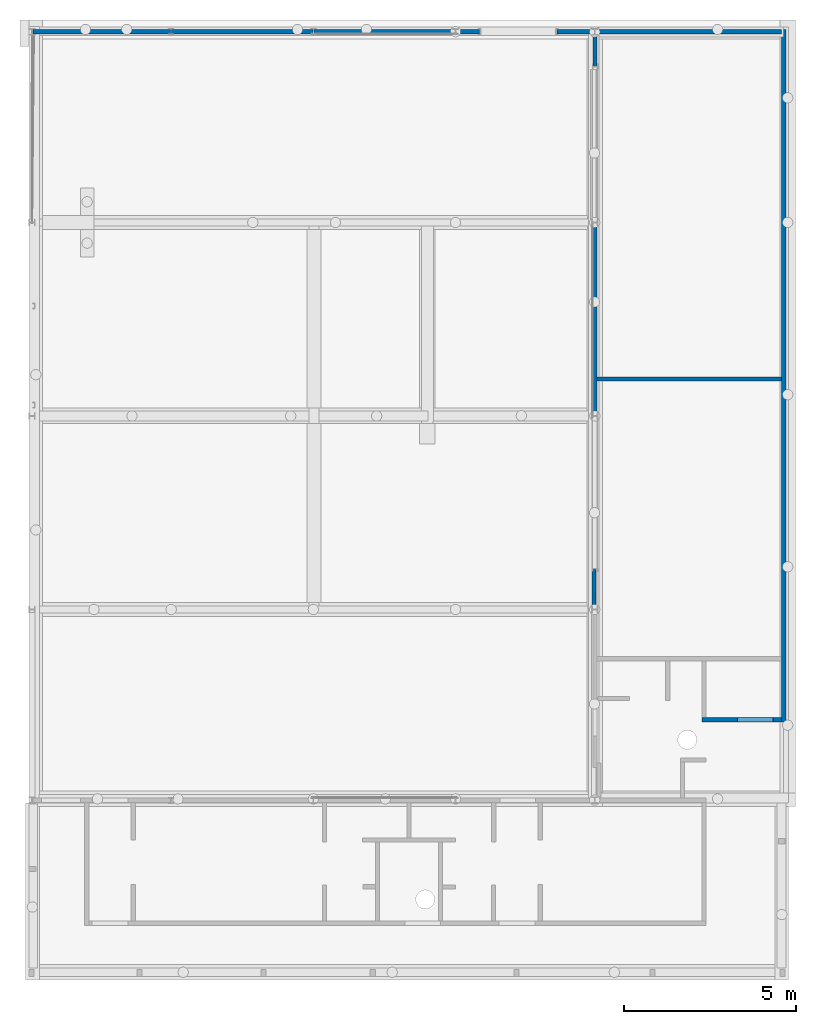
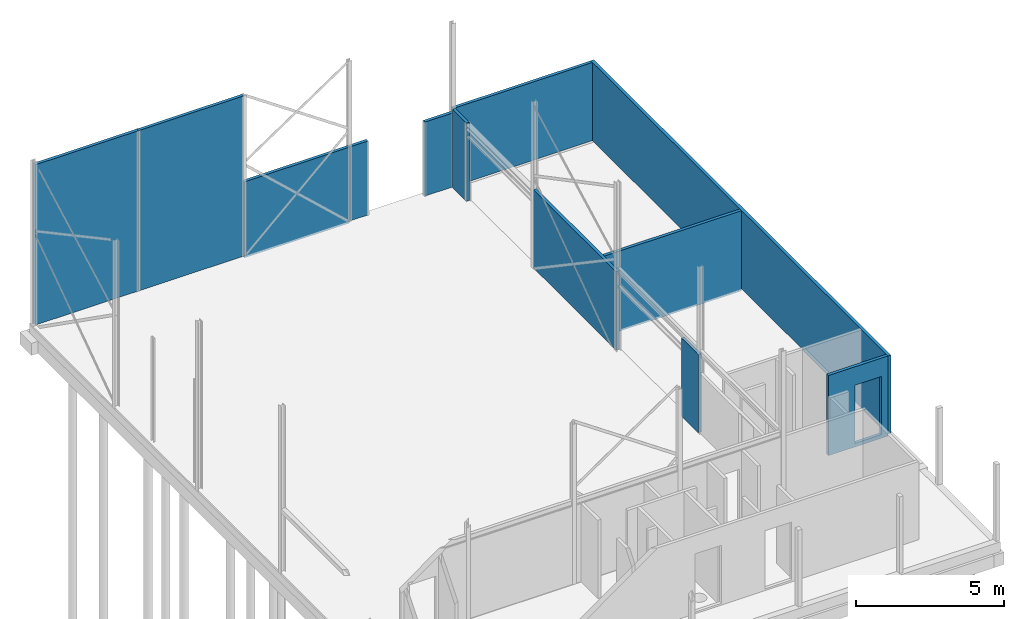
# One storey, part 10 of 17: 12 walls, 1 opening.
"""IFC2X3 building model written with IfcOpenShell, lengths in millimetres."""

from ifc_helpers import new_model, entity, si_unit, converted_unit, derived_unit, direction, frame, frame_2d, origin, place, context, subcontext, project, spatial, rectangle, extrude, material, layer, layer_set, layer_usage, type_object, element, save


model = new_model("IFC2X3")

# Units and contexts
model_context = context("Model", 3, precision=0.01, world=origin(), true_north=direction((6.123031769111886e-17, 1.0)))
plan_context = context("Plan", 3, precision=0.01, world=origin(), true_north=direction((6.123031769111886e-17, 1.0)))
body_context = subcontext(model_context, "Body", "Model", "MODEL_VIEW")
ifc_project = project(units=[si_unit("LENGTHUNIT", "METRE", prefix="MILLI"), si_unit("AREAUNIT", "SQUARE_METRE"), si_unit("VOLUMEUNIT", "CUBIC_METRE"), converted_unit("PLANEANGLEUNIT", "DEGREE", entity("IfcPlaneAngleMeasure", 0.017453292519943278), si_unit("PLANEANGLEUNIT", "RADIAN"), dimensions=[0, 0, 0, 0, 0, 0, 0]), si_unit("MASSUNIT", "GRAM", prefix="KILO"), derived_unit("MASSDENSITYUNIT", [(si_unit("MASSUNIT", "GRAM", prefix="KILO"), 1), (si_unit("LENGTHUNIT", "METRE"), -3)]), derived_unit("IONCONCENTRATIONUNIT", [(si_unit("MASSUNIT", "GRAM", prefix="KILO"), 1), (si_unit("LENGTHUNIT", "METRE"), -3)]), derived_unit("MOMENTOFINERTIAUNIT", [(si_unit("LENGTHUNIT", "METRE"), 4)]), si_unit("TIMEUNIT", "SECOND"), si_unit("FREQUENCYUNIT", "HERTZ"), si_unit("THERMODYNAMICTEMPERATUREUNIT", "DEGREE_CELSIUS"), derived_unit("THERMALTRANSMITTANCEUNIT", [(si_unit("MASSUNIT", "GRAM", prefix="KILO"), 1), (si_unit("THERMODYNAMICTEMPERATUREUNIT", "KELVIN"), -1), (si_unit("TIMEUNIT", "SECOND"), -3)]), derived_unit("THERMALCONDUCTANCEUNIT", [(si_unit("MASSUNIT", "GRAM", prefix="KILO"), 1), (si_unit("THERMODYNAMICTEMPERATUREUNIT", "KELVIN"), -1), (si_unit("TIMEUNIT", "SECOND"), -3), (si_unit("LENGTHUNIT", "METRE"), 1)]), derived_unit("VOLUMETRICFLOWRATEUNIT", [(si_unit("LENGTHUNIT", "METRE", prefix="DECI"), 3), (si_unit("TIMEUNIT", "SECOND"), -1)]), derived_unit("MASSFLOWRATEUNIT", [(si_unit("MASSUNIT", "GRAM", prefix="KILO"), 1), (si_unit("TIMEUNIT", "SECOND"), -1)]), derived_unit("ROTATIONALFREQUENCYUNIT", [(si_unit("TIMEUNIT", "SECOND"), -1)]), si_unit("ELECTRICCURRENTUNIT", "AMPERE"), si_unit("ELECTRICVOLTAGEUNIT", "VOLT"), si_unit("POWERUNIT", "WATT"), si_unit("FORCEUNIT", "NEWTON", prefix="KILO"), si_unit("ILLUMINANCEUNIT", "LUX"), si_unit("LUMINOUSFLUXUNIT", "LUMEN"), si_unit("LUMINOUSINTENSITYUNIT", "CANDELA"), si_unit("ENERGYUNIT", "JOULE"), derived_unit("USERDEFINED", [(si_unit("MASSUNIT", "GRAM", prefix="KILO"), -1), (si_unit("LENGTHUNIT", "METRE"), -2), (si_unit("TIMEUNIT", "SECOND"), 3), (si_unit("LUMINOUSFLUXUNIT", "LUMEN"), 1)]), derived_unit("USERDEFINED", [(si_unit("MASSUNIT", "GRAM", prefix="KILO"), 1), (si_unit("TIMEUNIT", "SECOND"), -3), (si_unit("LENGTHUNIT", "METRE"), 3), (si_unit("ELECTRICCURRENTUNIT", "AMPERE"), -2)]), derived_unit("SOUNDPOWERUNIT", [(si_unit("MASSUNIT", "GRAM", prefix="KILO"), 1), (si_unit("TIMEUNIT", "SECOND"), -3), (si_unit("LENGTHUNIT", "METRE"), 2)]), derived_unit("SOUNDPRESSUREUNIT", [(si_unit("MASSUNIT", "GRAM", prefix="KILO"), 1), (si_unit("LENGTHUNIT", "METRE"), -1), (si_unit("TIMEUNIT", "SECOND"), -2)]), derived_unit("LINEARVELOCITYUNIT", [(si_unit("LENGTHUNIT", "METRE"), 1), (si_unit("TIMEUNIT", "SECOND"), -1)]), si_unit("PRESSUREUNIT", "PASCAL"), derived_unit("USERDEFINED", [(si_unit("MASSUNIT", "GRAM", prefix="KILO"), 1), (si_unit("LENGTHUNIT", "METRE"), -2), (si_unit("TIMEUNIT", "SECOND"), -2)]), derived_unit("LINEARFORCEUNIT", [(si_unit("MASSUNIT", "GRAM", prefix="KILO"), 1), (si_unit("TIMEUNIT", "SECOND"), -2)]), derived_unit("PLANARFORCEUNIT", [(si_unit("MASSUNIT", "GRAM", prefix="KILO"), 1), (si_unit("LENGTHUNIT", "METRE"), -1), (si_unit("TIMEUNIT", "SECOND"), -2)]), derived_unit("SPECIFICHEATCAPACITYUNIT", [(si_unit("THERMODYNAMICTEMPERATUREUNIT", "KELVIN"), -1), (si_unit("LENGTHUNIT", "METRE"), 2), (si_unit("TIMEUNIT", "SECOND"), -2)]), derived_unit("HEATFLUXDENSITYUNIT", [(si_unit("MASSUNIT", "GRAM", prefix="KILO"), 1), (si_unit("TIMEUNIT", "SECOND"), -3)]), derived_unit("HEATINGVALUEUNIT", [(si_unit("LENGTHUNIT", "METRE"), 2), (si_unit("TIMEUNIT", "SECOND"), -2)]), derived_unit("VAPORPERMEABILITYUNIT", [(si_unit("LENGTHUNIT", "METRE"), -1), (si_unit("TIMEUNIT", "SECOND"), 1)]), derived_unit("DYNAMICVISCOSITYUNIT", [(si_unit("MASSUNIT", "GRAM", prefix="KILO"), 1), (si_unit("TIMEUNIT", "SECOND"), -1), (si_unit("LENGTHUNIT", "METRE"), -1)]), derived_unit("THERMALEXPANSIONCOEFFICIENTUNIT", [(si_unit("THERMODYNAMICTEMPERATUREUNIT", "KELVIN"), -1)]), derived_unit("MODULUSOFELASTICITYUNIT", [(si_unit("MASSUNIT", "GRAM", prefix="KILO"), 1), (si_unit("LENGTHUNIT", "METRE"), -1), (si_unit("TIMEUNIT", "SECOND"), -2)]), derived_unit("ISOTHERMALMOISTURECAPACITYUNIT", [(si_unit("MASSUNIT", "GRAM", prefix="KILO"), -1), (si_unit("LENGTHUNIT", "METRE"), 3)]), derived_unit("MOISTUREDIFFUSIVITYUNIT", [(si_unit("TIMEUNIT", "SECOND"), -1), (si_unit("LENGTHUNIT", "METRE"), 2)]), derived_unit("MASSPERLENGTHUNIT", [(si_unit("MASSUNIT", "GRAM", prefix="KILO"), 1), (si_unit("LENGTHUNIT", "METRE"), -1)]), derived_unit("THERMALRESISTANCEUNIT", [(si_unit("MASSUNIT", "GRAM", prefix="KILO"), -1), (si_unit("TIMEUNIT", "SECOND"), 3), (si_unit("THERMODYNAMICTEMPERATUREUNIT", "KELVIN"), 1)]), derived_unit("ACCELERATIONUNIT", [(si_unit("LENGTHUNIT", "METRE"), 1), (si_unit("TIMEUNIT", "SECOND"), -2)]), derived_unit("ANGULARVELOCITYUNIT", [(si_unit("TIMEUNIT", "SECOND"), -1), (si_unit("PLANEANGLEUNIT", "RADIAN"), 1)]), derived_unit("LINEARSTIFFNESSUNIT", [(si_unit("MASSUNIT", "GRAM", prefix="KILO"), 1), (si_unit("TIMEUNIT", "SECOND"), -2)]), derived_unit("WARPINGCONSTANTUNIT", [(si_unit("LENGTHUNIT", "METRE"), 6)]), derived_unit("LINEARMOMENTUNIT", [(si_unit("MASSUNIT", "GRAM", prefix="KILO"), 1), (si_unit("LENGTHUNIT", "METRE"), 1), (si_unit("TIMEUNIT", "SECOND"), -2)]), derived_unit("TORQUEUNIT", [(si_unit("MASSUNIT", "GRAM", prefix="KILO"), 1), (si_unit("LENGTHUNIT", "METRE"), 2), (si_unit("TIMEUNIT", "SECOND"), -2)])], contexts=[model_context, plan_context])

# Site, building, storey
site_placement = place(None, origin())
site = spatial("IfcSite", under=ifc_project, at=site_placement, Name="Default", CompositionType="ELEMENT")
building_placement = place(site_placement, origin())
building = spatial("IfcBuilding", under=site, at=building_placement, CompositionType="ELEMENT")
storey_placement = place(building_placement, origin())
storey = spatial("IfcBuildingStorey", under=building, at=storey_placement, Name="00 begane grond", CompositionType="ELEMENT", Elevation=0.0)

# Walls
ifc_material = material(Name="kalkzandsteen lijmelementen CS12")
ifc_layer = layer(ifc_material, 120.0)
ifc_layer_set = layer_set([ifc_layer], Name="Basic Wall:21.22_WA_TLB_kalkzandsteen 120-CS12_dw")
ifc_layer_usage_1 = layer_usage(ifc_layer_set, "AXIS2", "NEGATIVE", 60.0)
wall_type = type_object("IfcWallType", Name="Basic Wall:21.22_WA_TLB_kalkzandsteen 120-CS12_dw", PredefinedType="STANDARD", material=ifc_layer_set)
wall_1_placement = place(storey_placement, frame((50474.192937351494, 21887.67048572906, -70.0), z_axis=(0.0, 0.0, 1.0), x_axis=(0.0, 1.0, 0.0)))
element("IfcWallStandardCase", 1, at=wall_1_placement, inside=storey, type_object=wall_type, material=ifc_layer_usage_1, Name="Basic Wall:21.22_WA_TLB_kalkzandsteen 120-CS12_dw", ObjectType="Basic Wall:21.22_WA_TLB_kalkzandsteen 120-CS12_dw", context=body_context, shape_type="SweptSolid", body=[
    extrude(rectangle(XDim=1149.9999999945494, YDim=120.00000000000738, at=frame_2d((574.9999999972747, 0.0), x_axis=(-1.0, 0.0))), origin(), (0.0, 0.0, 1.0), 3226.999999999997),
])
ifc_layer_usage_2 = layer_usage(ifc_layer_set, "AXIS2", "NEGATIVE", 60.0)
wall_2_placement = place(storey_placement, frame((50506.19293735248, 27507.670485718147, -70.0), z_axis=(0.0, 0.0, 1.0), x_axis=(0.0, 1.0, 0.0)))
element("IfcWallStandardCase", 2, at=wall_2_placement, inside=storey, type_object=wall_type, material=ifc_layer_usage_2, Name="Basic Wall:21.22_WA_TLB_kalkzandsteen 120-CS12_dw", ObjectType="Basic Wall:21.22_WA_TLB_kalkzandsteen 120-CS12_dw", context=body_context, shape_type="SweptSolid", body=[
    extrude(rectangle(XDim=5590.000022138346, YDim=120.00000000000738, at=frame_2d((2795.000011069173, 0.0), x_axis=(-1.0, 0.0))), origin(), (0.0, 0.0, 1.0), 3229.9999999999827),
])
ifc_layer_usage_3 = layer_usage(ifc_layer_set, "AXIS2", "POSITIVE", -60.0)
wall_3_placement = place(storey_placement, frame((55986.19293735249, 18612.670463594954, -70.0), z_axis=(0.0, 0.0, 1.0), x_axis=(0.0, 1.0, 0.0)))
element("IfcWallStandardCase", 3, at=wall_3_placement, inside=storey, type_object=wall_type, material=ifc_layer_usage_3, Name="Basic Wall:21.22_WA_TLB_kalkzandsteen 120-CS12_dw", ObjectType="Basic Wall:21.22_WA_TLB_kalkzandsteen 120-CS12_dw", context=body_context, shape_type="SweptSolid", body=[
    extrude(rectangle(XDim=20100.00004425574, YDim=120.00000000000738, at=frame_2d((10050.00002212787, 0.0), x_axis=(-1.0, 0.0))), origin(), (0.0, 0.0, 1.0), 3230.0000000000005),
])

# Wall, opening
ifc_layer_usage_4 = layer_usage(ifc_layer_set, "AXIS2", "NEGATIVE", 60.0)
wall_4_placement = place(storey_placement, frame((53606.192937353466, 18672.670463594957, -150.0)))
wall_4 = element("IfcWallStandardCase", 4, at=wall_4_placement, inside=storey, type_object=wall_type, material=ifc_layer_usage_4, Name="Basic Wall:21.22_WA_TLB_kalkzandsteen 120-CS12_dw", ObjectType="Basic Wall:21.22_WA_TLB_kalkzandsteen 120-CS12_dw", context=body_context, shape_type="SweptSolid", body=[
    extrude(rectangle(XDim=2319.999999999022, YDim=119.9999999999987, at=frame_2d((1159.999999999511, -6.856737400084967e-13), x_axis=(-1.0, 0.0))), origin(), (0.0, 0.0, 1.0), 3310.0000000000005),
])
opening_placement = place(wall_4_placement, origin())
element("IfcOpeningElement", 5, at=opening_placement, cuts=wall_4, Name="Basic Wall:21.22_WA_TLB_kalkzandsteen 120-CS12_dw", ObjectType="Opening", context=body_context, shape_type="SweptSolid", body=[
    extrude(rectangle(XDim=2399.9999999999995, YDim=1034.0000086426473, at=frame_2d((-4.320099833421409e-12, 0.0), x_axis=(0.0, 1.0))), frame((1552.999986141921, 60.0, 1350.0), z_axis=(0.0, -1.0, 0.0), x_axis=(-1.0, 0.0, 0.0)), (0.0, 0.0, 1.0), 120.0),
])

# Walls
ifc_layer_usage_5 = layer_usage(ifc_layer_set, "AXIS2", "NEGATIVE", 60.0)
wall_5_placement = place(storey_placement, frame((50566.192937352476, 28562.670507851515, -150.0)))
element("IfcWallStandardCase", 6, at=wall_5_placement, inside=storey, type_object=wall_type, material=ifc_layer_usage_5, Name="Basic Wall:21.22_WA_TLB_kalkzandsteen 120-CS12_dw", ObjectType="Basic Wall:21.22_WA_TLB_kalkzandsteen 120-CS12_dw", context=body_context, shape_type="SweptSolid", body=[
    extrude(rectangle(XDim=5360.000000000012, YDim=119.9999999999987, at=frame_2d((2680.000000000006, -2.4158453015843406e-13), x_axis=(-1.0, 0.0))), origin(), (0.0, 0.0, 1.0), 3310.0000000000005),
])
ifc_layer_usage_6 = layer_usage(ifc_layer_set, "AXIS2", "NEGATIVE", 60.0)
wall_6_placement = place(storey_placement, frame((50501.19293735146, 38652.67050785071, -70.0)))
element("IfcWallStandardCase", 7, at=wall_6_placement, inside=storey, type_object=wall_type, material=ifc_layer_usage_6, Name="Basic Wall:21.22_WA_TLB_kalkzandsteen 120-CS12_dw", ObjectType="Basic Wall:21.22_WA_TLB_kalkzandsteen 120-CS12_dw", context=body_context, shape_type="SweptSolid", body=[
    extrude(rectangle(XDim=5425.000000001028, YDim=119.9999999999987, at=frame_2d((2712.500000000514, -1.3855583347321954e-13), x_axis=(-1.0, 0.0))), origin(), (0.0, 0.0, 1.0), 3230.0000000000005),
])
ifc_layer_usage_7 = layer_usage(ifc_layer_set, "AXIS2", "NEGATIVE", 60.0)
wall_7_placement = place(storey_placement, frame((49401.19293734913, 38652.67050785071, -70.0)))
element("IfcWallStandardCase", 8, at=wall_7_placement, inside=storey, type_object=wall_type, material=ifc_layer_usage_7, Name="Basic Wall:21.22_WA_TLB_kalkzandsteen 120-CS12_dw", ObjectType="Basic Wall:21.22_WA_TLB_kalkzandsteen 120-CS12_dw", context=body_context, shape_type="SweptSolid", body=[
    extrude(rectangle(XDim=1070.0000000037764, YDim=119.9999999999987, at=frame_2d((535.0000000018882, 0.0), x_axis=(-1.0, 0.0))), origin(), (0.0, 0.0, 1.0), 3054.9999999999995),
])
ifc_layer_usage_8 = layer_usage(ifc_layer_set, "AXIS2", "NEGATIVE", 60.0)
wall_8_placement = place(storey_placement, frame((46471.192937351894, 38652.67034020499, -70.0)))
element("IfcWallStandardCase", 9, at=wall_8_placement, inside=storey, type_object=wall_type, material=ifc_layer_usage_8, Name="Basic Wall:21.22_WA_TLB_kalkzandsteen 120-CS12_dw", ObjectType="Basic Wall:21.22_WA_TLB_kalkzandsteen 120-CS12_dw", context=body_context, shape_type="SweptSolid", body=[
    extrude(rectangle(XDim=679.9999999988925, YDim=119.9999999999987, at=frame_2d((339.99999999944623, 0.0), x_axis=(-1.0, 0.0))), origin(), (0.0, 0.0, 1.0), 3054.9999999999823),
])
ifc_layer_usage_9 = layer_usage(ifc_layer_set, "AXIS2", "NEGATIVE", 60.0)
wall_9_placement = place(storey_placement, frame((42341.19293735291, 38652.67050785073, -150.0)))
element("IfcWallStandardCase", 10, at=wall_9_placement, inside=storey, type_object=wall_type, material=ifc_layer_usage_9, Name="Basic Wall:21.22_WA_TLB_kalkzandsteen 120-CS12_dw", ObjectType="Basic Wall:21.22_WA_TLB_kalkzandsteen 120-CS12_dw", context=body_context, shape_type="SweptSolid", body=[
    extrude(rectangle(XDim=4100.000000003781, YDim=119.99999999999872, at=frame_2d((2050.0000000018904, -5.3290705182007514e-14), x_axis=(-1.0, 0.0))), origin(), (0.0, 0.0, 1.0), 3135.0),
])
ifc_layer_usage_10 = layer_usage(ifc_layer_set, "AXIS2", "NEGATIVE", 60.0)
wall_10_placement = place(storey_placement, frame((38211.19293735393, 38652.670507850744, -70.0)))
element("IfcWallStandardCase", 11, at=wall_10_placement, inside=storey, type_object=wall_type, material=ifc_layer_usage_10, Name="Basic Wall:21.22_WA_TLB_kalkzandsteen 120-CS12_dw", ObjectType="Basic Wall:21.22_WA_TLB_kalkzandsteen 120-CS12_dw", context=body_context, shape_type="SweptSolid", body=[
    extrude(rectangle(XDim=4100.000000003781, YDim=119.99999999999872, at=frame_2d((2050.0000000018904, -5.3290705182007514e-14), x_axis=(-1.0, 0.0))), origin(), (0.0, 0.0, 1.0), 6618.000000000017),
])
ifc_layer_usage_11 = layer_usage(ifc_layer_set, "AXIS2", "NEGATIVE", 60.0)
wall_11_placement = place(storey_placement, frame((34181.19293734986, 38652.67050785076, -70.0)))
element("IfcWallStandardCase", 12, at=wall_11_placement, inside=storey, type_object=wall_type, material=ifc_layer_usage_11, Name="Basic Wall:21.22_WA_TLB_kalkzandsteen 120-CS12_dw", ObjectType="Basic Wall:21.22_WA_TLB_kalkzandsteen 120-CS12_dw", context=body_context, shape_type="SweptSolid", body=[
    extrude(rectangle(XDim=4000.0000000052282, YDim=119.99999999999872, at=frame_2d((2000.0000000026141, -2.0961010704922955e-13), x_axis=(-1.0, 0.0))), origin(), (0.0, 0.0, 1.0), 6618.000000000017),
])
ifc_layer_usage_12 = layer_usage(ifc_layer_set, "AXIS2", "NEGATIVE", 60.0)
wall_12_placement = place(storey_placement, frame((50506.19293735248, 37622.49488643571, -70.0), z_axis=(0.0, 0.0, 1.0), x_axis=(0.0, 1.0, 0.0)))
element("IfcWallStandardCase", 13, at=wall_12_placement, inside=storey, type_object=wall_type, material=ifc_layer_usage_12, Name="Basic Wall:21.22_WA_TLB_kalkzandsteen 120-CS12_dw", ObjectType="Basic Wall:21.22_WA_TLB_kalkzandsteen 120-CS12_dw", context=body_context, shape_type="SweptSolid", body=[
    extrude(rectangle(XDim=944.6756214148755, YDim=120.00000000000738, at=frame_2d((472.33781070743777, 0.0), x_axis=(-1.0, 0.0))), origin(), (0.0, 0.0, 1.0), 3230.0000000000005),
])

save(model, "model.ifc")
